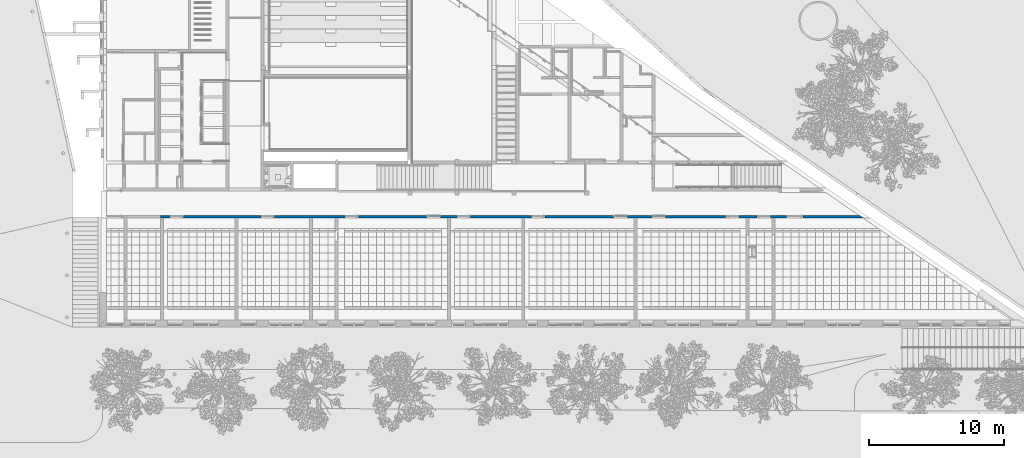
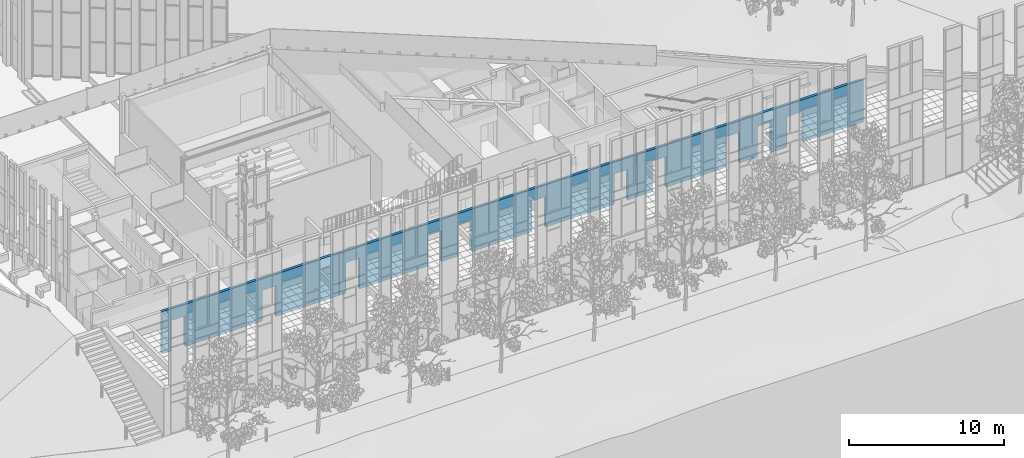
# One storey, part 109 of 246: 1 wall, 11 openings.
"""IFC2X3 building model written with IfcOpenShell, lengths in millimetres."""

from ifc_helpers import new_model, entity, si_unit, converted_unit, derived_unit, money_unit, direction, frame, origin_with_axes, place, context, subcontext, project, spatial, faceted_brep, material, material_list, type_object, element, save


model = new_model("IFC2X3")

# Units and contexts
model_context = context("Model", 3, precision=0.01, world=origin_with_axes(), true_north=direction((0.0, 1.0)))
body_context = subcontext(model_context, "Body", "Model", "MODEL_VIEW")
ifc_project = project(units=[si_unit("LENGTHUNIT", "METRE", prefix="MILLI"), si_unit("AREAUNIT", "SQUARE_METRE"), si_unit("VOLUMEUNIT", "CUBIC_METRE"), converted_unit("PLANEANGLEUNIT", "DEGREE", entity("IfcPlaneAngleMeasure", 0.0174532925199), si_unit("PLANEANGLEUNIT", "RADIAN"), dimensions=[0, 0, 0, 0, 0, 0, 0]), si_unit("SOLIDANGLEUNIT", "STERADIAN"), money_unit("EUR"), converted_unit("TIMEUNIT", "Year", entity("IfcTimeMeasure", 31556926.0), si_unit("TIMEUNIT", "SECOND"), dimensions=[0, 0, 1, 0, 0, 0, 0]), si_unit("MASSUNIT", "GRAM", prefix="KILO"), si_unit("THERMODYNAMICTEMPERATUREUNIT", "DEGREE_CELSIUS"), si_unit("LUMINOUSINTENSITYUNIT", "LUMEN"), si_unit("ENERGYUNIT", "JOULE", prefix="MEGA"), derived_unit("THERMALCONDUCTANCEUNIT", [(si_unit("POWERUNIT", "WATT"), 1), (si_unit("LENGTHUNIT", "METRE"), -1), (si_unit("THERMODYNAMICTEMPERATUREUNIT", "KELVIN"), -1)]), derived_unit("SPECIFICHEATCAPACITYUNIT", [(si_unit("ENERGYUNIT", "JOULE"), 1), (si_unit("MASSUNIT", "GRAM", prefix="KILO"), -1), (si_unit("THERMODYNAMICTEMPERATUREUNIT", "KELVIN"), -1)]), derived_unit("MASSDENSITYUNIT", [(si_unit("MASSUNIT", "GRAM", prefix="KILO"), 1), (si_unit("VOLUMEUNIT", "CUBIC_METRE"), -1)])], contexts=[model_context])

# Site, building, storey
site_placement = place(None, origin_with_axes())
site = spatial("IfcSite", under=ifc_project, at=site_placement, Name="L.Koidula tn 11b", CompositionType="ELEMENT")
building_placement = place(site_placement, origin_with_axes())
building = spatial("IfcBuilding", under=site, at=building_placement, Name="Rakvere Riigigümnaasium", CompositionType="ELEMENT")
storey_placement = place(building_placement, origin_with_axes())
storey = spatial("IfcBuildingStorey", under=building, at=storey_placement, Name="1.korrus 0,00", CompositionType="ELEMENT", Elevation=0.0)

# Wall, openings
ifc_material_1 = material(Name="siseviimistlus-seinad")
ifc_material_2 = material(Name="Betoon element / plaat")
ifc_material_list = material_list([ifc_material_1, ifc_material_2])
wall_type = type_object("IfcWallType", Name="SS-01-1 210", PredefinedType="NOTDEFINED")
wall_placement = place(storey_placement, frame((91374.3912898, 13280.4555133, 0.0), z_axis=(0.0, 0.0, 1.0), x_axis=(-1.0, -2.68268180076e-07, 0.0)))
wall = element("IfcWall", 1, at=wall_placement, inside=storey, type_object=wall_type, material=ifc_material_list, Name="Sisesein", context=body_context, shape_type="Brep", body=[
    faceted_brep([(5384.3908065, 199.999458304, 2400.0), (5384.3908065, 200.0, 0.0), (6274.40599034, 200.0, 0.0), (6274.40599034, 199.999458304, 3325.0), (-291.597111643, 200.001219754, 3325.0), (-291.597111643, 200.0, 0.0), (4184.3908065, 200.0, 0.0), (4184.3908065, 199.999458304, 2400.0), (5384.3908065, 210.0, 2400.0), (5384.3908065, 210.0, 0.0), (6274.40599303, 210.0, 0.0), (6274.40599303, 210.0, 3325.0), (-306.176967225, 210.0, 3325.0), (-306.176967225, 210.0, 0.0), (4184.3908065, 210.0, 0.0), (4184.3908065, 210.0, 2400.0)], [[[0, 1, 2, 3, 4, 5, 6, 7]], [[1, 0, 8, 9]], [[1, 9, 10, 2]], [[3, 2, 10, 11]], [[12, 4, 3, 11]], [[12, 13, 5, 4]], [[14, 6, 5, 13]], [[7, 6, 14, 15]], [[0, 7, 15, 8]], [[15, 14, 13, 12, 11, 10, 9, 8]]]),
    faceted_brep([(7574.40599034, 199.998943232, 2400.0), (7574.40599034, 200.0, 0.0), (8194.39383256, 200.0, 0.0), (8194.39383255, 199.998943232, 3325.0), (6474.40599034, 199.99940465, 3325.0), (6474.40599034, 200.0, 0.0), (6574.40599034, 200.0, 0.0), (6574.40599034, 199.998943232, 2400.0), (7574.40599034, 210.0, 2400.0), (7574.40599034, 210.0, 0.0), (8194.39383524, 210.0, 0.0), (8194.39383524, 210.0, 3325.0), (6474.40599303, 210.0, 3325.0), (6474.40599303, 210.0, 0.0), (6574.40599034, 210.0, 0.0), (6574.40599034, 210.0, 2400.0)], [[[0, 1, 2, 3, 4, 5, 6, 7]], [[1, 0, 8, 9]], [[1, 9, 10, 2]], [[3, 2, 10, 11]], [[4, 3, 11, 12]], [[12, 13, 5, 4]], [[14, 6, 5, 13]], [[7, 6, 14, 15]], [[0, 7, 15, 8]], [[15, 14, 13, 12, 11, 10, 9, 8]]]),
    faceted_brep([(9909.36296823, 199.996711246, 2400.0), (9909.36296823, 200.0, 0.0), (14384.4114584, 200.0, 0.0), (14384.4114584, 199.996711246, 2400.0), (15384.4114584, 199.996711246, 2400.0), (15384.4114584, 200.0, 0.0), (16514.3762544, 200.0, 0.0), (16514.3762544, 199.996711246, 3325.0), (8394.39383255, 199.998889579, 3325.0), (8394.39383256, 200.0, 0.0), (8909.36296823, 200.0, 0.0), (8909.36296823, 199.996711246, 2400.0), (9909.36296823, 210.0, 2400.0), (9909.36296823, 210.0, 0.0), (14384.4114584, 210.0, 0.0), (14384.4114584, 210.0, 2400.0), (15384.4114584, 210.0, 2400.0), (15384.4114584, 210.0, 0.0), (16514.3762571, 210.0, 0.0), (16514.3762571, 210.0, 3325.0), (8394.39383524, 210.0, 3325.0), (8394.39383524, 210.0, 0.0), (8909.36296823, 210.0, 0.0), (8909.36296823, 210.0, 2400.0)], [[[0, 1, 2, 3, 4, 5, 6, 7, 8, 9, 10, 11]], [[1, 0, 12, 13]], [[1, 13, 14, 2]], [[2, 14, 15, 3]], [[3, 15, 16, 4]], [[4, 16, 17, 5]], [[17, 18, 6, 5]], [[6, 18, 19, 7]], [[7, 19, 20, 8]], [[21, 9, 8, 20]], [[22, 10, 9, 21]], [[11, 10, 22, 23]], [[0, 11, 23, 12]], [[23, 22, 21, 20, 19, 18, 17, 16, 15, 14, 13, 12]]]),
    faceted_brep([(24334.3764134, 199.994479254, 2400.0), (24334.3764134, 200.0, 0.0), (24834.3764108, 200.0, 0.0), (24834.3764108, 199.994479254, 3325.0), (16714.3762544, 199.996657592, 3325.0), (16714.3762544, 200.0, 0.0), (17214.3762571, 200.0, 0.0), (17214.3762571, 199.994479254, 2400.0), (18214.3762571, 199.994479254, 2400.0), (18214.3762571, 200.0, 0.0), (23334.3764133, 200.0, 0.0), (23334.3764133, 199.994479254, 2400.0), (24334.3764134, 210.0, 2400.0), (24334.3764134, 210.0, 0.0), (24834.3764134, 210.0, 0.0), (24834.3764134, 210.0, 3325.0), (16714.3762571, 210.0, 3325.0), (16714.3762571, 210.0, 0.0), (17214.3762571, 210.0, 0.0), (17214.3762571, 210.0, 2400.0), (18214.3762571, 210.0, 2400.0), (18214.3762571, 210.0, 0.0), (23334.3764133, 210.0, 0.0), (23334.3764133, 210.0, 2400.0)], [[[0, 1, 2, 3, 4, 5, 6, 7, 8, 9, 10, 11]], [[1, 0, 12, 13]], [[1, 13, 14, 2]], [[2, 14, 15, 3]], [[3, 15, 16, 4]], [[17, 5, 4, 16]], [[6, 5, 17, 18]], [[6, 18, 19, 7]], [[7, 19, 20, 8]], [[8, 20, 21, 9]], [[22, 10, 9, 21]], [[11, 10, 22, 23]], [[0, 11, 23, 12]], [[23, 22, 21, 20, 19, 18, 17, 16, 15, 14, 13, 12]]]),
    faceted_brep([(29854.3411798, 199.992998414, 2400.0), (29854.3411798, 200.0, 0.0), (30354.3750518, 200.0, 0.0), (30354.3750518, 199.992998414, 3325.0), (25034.3764108, 199.994425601, 3325.0), (25034.3764108, 200.0, 0.0), (28854.3411797, 200.0, 0.0), (28854.3411797, 199.992998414, 2400.0), (29854.3411798, 210.0, 2400.0), (29854.3411798, 210.0, 0.0), (30354.3750545, 210.0, 0.0), (30354.3750545, 210.0, 3325.0), (25034.3764134, 210.0, 3325.0), (25034.3764134, 210.0, 0.0), (28854.3411797, 210.0, 0.0), (28854.3411797, 210.0, 2400.0)], [[[0, 1, 2, 3, 4, 5, 6, 7]], [[1, 0, 8, 9]], [[1, 9, 10, 2]], [[3, 2, 10, 11]], [[4, 3, 11, 12]], [[12, 13, 5, 4]], [[14, 6, 5, 13]], [[7, 6, 14, 15]], [[0, 7, 15, 8]], [[15, 14, 13, 12, 11, 10, 9, 8]]]),
    faceted_brep([(38174.3912916, 199.990766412, 2400.0), (38174.3912916, 200.0, 0.0), (38674.4147049, 200.0, 0.0), (38674.4147049, 199.990766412, 3325.0), (30554.3750518, 199.992944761, 3325.0), (30554.3750518, 200.0, 0.0), (31064.3750545, 200.0, 0.0), (31064.3750545, 199.990766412, 2400.0), (32064.3750545, 199.990766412, 2400.0), (32064.3750545, 200.0, 0.0), (37174.3912915, 200.0, 0.0), (37174.3912915, 199.990766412, 2400.0), (38174.3912916, 210.0, 2400.0), (38174.3912916, 210.0, 0.0), (38674.4147076, 210.0, 0.0), (38674.4147076, 210.0, 3325.0), (30554.3750545, 210.0, 3325.0), (30554.3750545, 210.0, 0.0), (31064.3750545, 210.0, 0.0), (31064.3750545, 210.0, 2400.0), (32064.3750545, 210.0, 2400.0), (32064.3750545, 210.0, 0.0), (37174.3912915, 210.0, 0.0), (37174.3912915, 210.0, 2400.0)], [[[0, 1, 2, 3, 4, 5, 6, 7, 8, 9, 10, 11]], [[1, 0, 12, 13]], [[1, 13, 14, 2]], [[2, 14, 15, 3]], [[3, 15, 16, 4]], [[17, 5, 4, 16]], [[6, 5, 17, 18]], [[6, 18, 19, 7]], [[7, 19, 20, 8]], [[8, 20, 21, 9]], [[22, 10, 9, 21]], [[11, 10, 22, 23]], [[0, 11, 23, 12]], [[23, 22, 21, 20, 19, 18, 17, 16, 15, 14, 13, 12]]]),
    faceted_brep([(40594.4082662, 199.990251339, 3325.0), (38874.4147049, 199.990712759, 3325.0), (38874.4147049, 200.0, 0.0), (40594.4082662, 200.0, 0.0), (38874.4147076, 210.0, 3325.0), (40594.4082689, 210.0, 3325.0), (38874.4147076, 210.0, 0.0), (40594.4082689, 210.0, 0.0)], [[[0, 1, 2, 3]], [[4, 1, 0, 5]], [[1, 4, 6, 2]], [[7, 3, 2, 6]], [[5, 0, 3, 7]], [[4, 5, 7, 6]]]),
    faceted_brep([(44374.3912963, 200.0, 2400.0), (44374.3912963, 200.0, 0.0), (46114.3913462, 200.0, 0.0), (46114.3913462, 200.0, 3325.0), (40794.4082662, 199.990197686, 3325.0), (40794.4082662, 200.0, 0.0), (43374.3912962, 200.0, 0.0), (43374.3912962, 200.0, 2400.0), (44374.3912963, 210.0, 2400.0), (44374.3912963, 210.0, 0.0), (46114.3913489, 210.0, 0.0), (46114.3913489, 210.0, 3325.0), (40794.4082689, 210.0, 3325.0), (40794.4082689, 210.0, 0.0), (43374.3912962, 210.0, 0.0), (43374.3912962, 210.0, 2400.0)], [[[0, 1, 2, 3, 4, 5, 6, 7]], [[1, 0, 8, 9]], [[1, 9, 10, 2]], [[3, 2, 10, 11]], [[4, 3, 11, 12]], [[12, 13, 5, 4]], [[14, 6, 5, 13]], [[7, 6, 14, 15]], [[0, 7, 15, 8]], [[15, 14, 13, 12, 11, 10, 9, 8]]]),
    faceted_brep([(51134.3913449, 200.0, 2400.0), (51134.3913449, 200.0, 0.0), (51634.3913449, 200.0, 0.0), (51634.3913449, 200.0, 3325.0), (46314.3913462, 200.0, 3325.0), (46314.3913462, 200.0, 0.0), (50134.3913448, 200.0, 0.0), (50134.3913448, 200.0, 2400.0), (51134.3913449, 210.0, 2400.0), (51134.3913449, 210.0, 0.0), (51634.3913476, 210.0, 0.0), (51634.3913476, 210.0, 3325.0), (46314.3913489, 210.0, 3325.0), (46314.3913489, 210.0, 0.0), (50134.3913448, 210.0, 0.0), (50134.3913448, 210.0, 2400.0)], [[[0, 1, 2, 3, 4, 5, 6, 7]], [[1, 0, 8, 9]], [[1, 9, 10, 2]], [[3, 2, 10, 11]], [[4, 3, 11, 12]], [[12, 13, 5, 4]], [[14, 6, 5, 13]], [[7, 6, 14, 15]], [[0, 7, 15, 8]], [[15, 14, 13, 12, 11, 10, 9, 8]]]),
    faceted_brep([(51844.3912913, 200.0, 3325.0), (51834.3913449, 200.0, 3325.0), (51834.3913449, 200.0, 0.0), (51844.3912913, 200.0, 0.0), (51834.3913476, 210.0, 3325.0), (51844.3912913, 210.0, 3325.0), (51834.3913476, 210.0, 0.0), (51844.3912913, 210.0, 0.0)], [[[0, 1, 2, 3]], [[4, 1, 0, 5]], [[1, 4, 6, 2]], [[6, 7, 3, 2]], [[5, 0, 3, 7]], [[4, 5, 7, 6]]]),
    faceted_brep([(7574.40599034, 0.0, 2400.0), (7574.40599034, 0.0, 0.0), (8909.36296823, 0.0, 0.0), (8909.36296823, 0.0, 2400.0), (9909.36296823, 0.0, 2400.0), (9909.36296823, 0.0, 0.0), (14384.4114584, 0.0, 0.0), (14384.4114584, 0.0, 2400.0), (15384.4114584, 0.0, 2400.0), (15384.4114584, 0.0, 0.0), (17214.3762571, 0.0, 0.0), (17214.3762571, 0.0, 2400.0), (18214.3762571, 0.0, 2400.0), (18214.3762571, 0.0, 0.0), (23334.3764133, 0.0, 0.0), (23334.3764133, 0.0, 2400.0), (24334.3764134, 0.0, 2400.0), (24334.3764134, 0.0, 0.0), (28854.3411797, 0.0, 0.0), (28854.3411797, 0.0, 2400.0), (29854.3411798, 0.0, 2400.0), (29854.3411798, 0.0, 0.0), (31064.3750545, 0.0, 0.0), (31064.3750545, 0.0, 2400.0), (32064.3750545, 0.0, 2400.0), (32064.3750545, 0.0, 0.0), (37174.3912915, 0.0, 0.0), (37174.3912915, 0.0, 2400.0), (38174.3912916, 0.0, 2400.0), (38174.3912916, 0.0, 0.0), (43374.3912962, 0.0, 0.0), (43374.3912962, 0.0, 2400.0), (44374.3912963, 0.0, 2400.0), (44374.3912963, 0.0, 0.0), (50134.3913448, 0.0, 0.0), (50134.3913448, 0.0, 2400.0), (51134.3913449, 0.0, 2400.0), (51134.3913449, 0.0, 0.0), (51844.3912913, 0.0, 0.0), (51844.3912913, 0.0, 3325.0), (0.0, 0.0, 3325.0), (0.0, 0.0, 0.0), (4184.3908065, 0.0, 0.0), (4184.3908065, 0.0, 2400.0), (5384.3908065, 0.0, 2400.0), (5384.3908065, 0.0, 0.0), (6574.40599034, 0.0, 0.0), (6574.40599034, 0.0, 2400.0), (7574.40599034, 80.0, 0.0), (7574.40599034, 199.994748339, 2400.0), (7574.40599034, 200.0, 0.0), (8909.36296823, 200.0, 0.0), (8909.36296823, 199.993707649, 2400.0), (9909.36296823, 199.992928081, 2400.0), (9909.36296823, 200.0, 0.0), (14384.4114584, 200.0, 0.0), (14384.4114584, 199.989439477, 2400.0), (15384.4114584, 199.988659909, 2400.0), (15384.4114584, 200.0, 0.0), (17214.3762571, 200.0, 0.0), (17214.3762571, 199.987233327, 2400.0), (18214.3762571, 199.987233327, 2400.0), (18214.3762571, 200.0, 0.0), (23334.3764133, 200.0, 0.0), (23334.3764133, 199.992320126, 2400.0), (24334.3764134, 199.993313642, 2400.0), (24334.3764134, 200.0, 0.0), (28854.3411797, 200.0, 0.0), (28854.3411797, 199.997804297, 2400.0), (29854.3411798, 199.998797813, 2400.0), (29854.3411798, 200.0, 0.0), (31064.3750545, 200.0, 0.0), (31064.3750545, 200.0, 2400.0), (32064.3750545, 200.0, 2400.0), (32064.3750545, 200.0, 0.0), (37174.3912915, 200.0, 0.0), (37174.3912915, 200.0, 2400.0), (38174.3912916, 200.0, 2400.0), (38174.3912916, 200.0, 0.0), (43374.3912962, 200.0, 0.0), (43374.3912962, 200.0, 2400.0), (44374.3912963, 200.0, 2400.0), (44374.3912963, 200.0, 0.0), (50134.3913448, 200.0, 0.0), (50134.3913448, 200.0, 2400.0), (51134.3913449, 200.0, 2400.0), (51134.3913449, 200.0, 0.0), (51844.3912913, 200.0, 0.0), (51844.3912913, 199.987233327, 3325.0), (-291.597111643, 200.001219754, 3325.0), (-291.597111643, 200.0, 0.0), (4184.3908065, 200.0, 0.0), (4184.3908065, 199.997391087, 2400.0), (5384.3908065, 199.996455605, 2400.0), (5384.3908065, 200.0, 0.0), (6574.40599034, 80.0, 0.0), (6574.40599034, 200.0, 0.0), (6574.40599034, 199.995527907, 2400.0)], [[[0, 1, 2, 3, 4, 5, 6, 7, 8, 9, 10, 11, 12, 13, 14, 15, 16, 17, 18, 19, 20, 21, 22, 23, 24, 25, 26, 27, 28, 29, 30, 31, 32, 33, 34, 35, 36, 37, 38, 39, 40, 41, 42, 43, 44, 45, 46, 47]], [[48, 1, 0, 49, 50]], [[1, 48, 50, 51, 2]], [[52, 3, 2, 51]], [[53, 4, 3, 52]], [[54, 5, 4, 53]], [[6, 5, 54, 55]], [[6, 55, 56, 7]], [[8, 7, 56, 57]], [[8, 57, 58, 9]], [[9, 58, 59, 10]], [[60, 11, 10, 59]], [[60, 61, 12, 11]], [[62, 13, 12, 61]], [[13, 62, 63, 14]], [[14, 63, 64, 15]], [[15, 64, 65, 16]], [[16, 65, 66, 17]], [[66, 67, 18, 17]], [[68, 19, 18, 67]], [[69, 20, 19, 68]], [[70, 21, 20, 69]], [[22, 21, 70, 71]], [[22, 71, 72, 23]], [[24, 23, 72, 73]], [[24, 73, 74, 25]], [[25, 74, 75, 26]], [[26, 75, 76, 27]], [[27, 76, 77, 28]], [[28, 77, 78, 29]], [[78, 79, 30, 29]], [[80, 31, 30, 79]], [[81, 32, 31, 80]], [[82, 33, 32, 81]], [[33, 82, 83, 34]], [[83, 84, 35, 34]], [[84, 85, 36, 35]], [[85, 86, 37, 36]], [[87, 38, 37, 86]], [[39, 38, 87, 88]], [[89, 40, 39, 88]], [[89, 90, 41, 40]], [[41, 90, 91, 42]], [[42, 91, 92, 43]], [[43, 92, 93, 44]], [[44, 93, 94, 45]], [[95, 46, 45, 94, 96]], [[47, 46, 95, 96, 97]], [[0, 47, 97, 49]], [[53, 52, 51, 50, 49, 97, 96, 94, 93, 92, 91, 90, 89, 60, 59, 58, 57, 56, 55, 54]], [[60, 89, 61]], [[62, 61, 64, 63]], [[89, 72, 69, 68, 65, 64, 61]], [[67, 66, 65, 68]], [[70, 69, 72, 71]], [[72, 89, 73]], [[74, 73, 76, 75]], [[77, 76, 73, 88, 80]], [[80, 79, 78, 77]], [[80, 88, 81]], [[81, 88, 82]], [[83, 82, 84]], [[84, 88, 85]], [[86, 85, 88]], [[87, 86, 88]], [[88, 73, 89]], [[82, 88, 84]]]),
])
opening_1_placement = place(wall_placement, frame((4784.3908065, 0.0, 0.0), z_axis=(0.0, 0.0, 1.0), x_axis=(1.0, 0.0, 0.0)))
element("IfcOpeningElement", 2, at=opening_1_placement, cuts=wall, Name="SU-028", context=body_context, shape_type="Brep", body=[
    faceted_brep([(600.0, 420.0, 0.0), (600.0, 420.0, 2400.0), (600.0, 80.0, 2400.0), (600.0, 80.0, 0.0), (-600.0, 420.0, 0.0), (-600.0, 420.0, 2400.0), (-600.0, 80.0, 2400.0), (-600.0, 80.0, 0.0)], [[[0, 1, 2, 3]], [[0, 4, 5, 1]], [[1, 5, 6, 2]], [[3, 2, 6, 7]], [[4, 0, 3, 7]], [[5, 4, 7, 6]]]),
    faceted_brep([(600.0, -210.0, 2400.0), (600.0, -210.0, 0.0), (600.0, 80.0, 0.0), (600.0, 80.0, 2400.0), (-600.0, -210.0, 2400.0), (-600.0, -210.0, 0.0), (-600.0, 80.0, 0.0), (-600.0, 80.0, 2400.0)], [[[0, 1, 2, 3]], [[0, 4, 5, 1]], [[1, 5, 6, 2]], [[3, 2, 6, 7]], [[4, 0, 3, 7]], [[5, 4, 7, 6]]]),
])
opening_2_placement = place(wall_placement, frame((43874.3912963, 0.0, 0.0), z_axis=(0.0, 0.0, 1.0), x_axis=(1.0, 0.0, 0.0)))
element("IfcOpeningElement", 3, at=opening_2_placement, cuts=wall, Name="SU-019", context=body_context, shape_type="Brep", body=[
    faceted_brep([(500.000000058, 420.0, 0.0), (500.000000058, 420.0, 2400.0), (500.000000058, 80.0, 2400.0), (500.000000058, 80.0, 0.0), (-500.000000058, 420.0, 0.0), (-500.000000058, 420.0, 2400.0), (-500.000000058, 80.0, 2400.0), (-500.000000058, 80.0, 0.0)], [[[0, 1, 2, 3]], [[0, 4, 5, 1]], [[1, 5, 6, 2]], [[3, 2, 6, 7]], [[4, 0, 3, 7]], [[5, 4, 7, 6]]]),
    faceted_brep([(500.000000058, -210.0, 2400.0), (500.000000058, -210.0, 0.0), (500.000000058, 80.0, 0.0), (500.000000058, 80.0, 2400.0), (-500.000000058, -210.0, 2400.0), (-500.000000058, -210.0, 0.0), (-500.000000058, 80.0, 0.0), (-500.000000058, 80.0, 2400.0)], [[[0, 1, 2, 3]], [[0, 4, 5, 1]], [[1, 5, 6, 2]], [[3, 2, 6, 7]], [[4, 0, 3, 7]], [[5, 4, 7, 6]]]),
])
opening_3_placement = place(wall_placement, frame((37674.3912915, 0.0, 0.0), z_axis=(0.0, 0.0, 1.0), x_axis=(1.0, 0.0, 0.0)))
element("IfcOpeningElement", 4, at=opening_3_placement, cuts=wall, Name="SU-020", context=body_context, shape_type="Brep", body=[
    faceted_brep([(500.000000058, 420.0, 0.0), (500.000000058, 420.0, 2400.0), (500.000000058, 80.0, 2400.0), (500.000000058, 80.0, 0.0), (-500.000000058, 420.0, 0.0), (-500.000000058, 420.0, 2400.0), (-500.000000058, 80.0, 2400.0), (-500.000000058, 80.0, 0.0)], [[[0, 1, 2, 3]], [[0, 4, 5, 1]], [[1, 5, 6, 2]], [[3, 2, 6, 7]], [[4, 0, 3, 7]], [[5, 4, 7, 6]]]),
    faceted_brep([(500.000000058, -210.0, 2400.0), (500.000000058, -210.0, 0.0), (500.000000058, 80.0, 0.0), (500.000000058, 80.0, 2400.0), (-500.000000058, -210.0, 2400.0), (-500.000000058, -210.0, 0.0), (-500.000000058, 80.0, 0.0), (-500.000000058, 80.0, 2400.0)], [[[0, 1, 2, 3]], [[0, 4, 5, 1]], [[1, 5, 6, 2]], [[3, 2, 6, 7]], [[4, 0, 3, 7]], [[5, 4, 7, 6]]]),
])
opening_4_placement = place(wall_placement, frame((29354.3411797, 0.0, 0.0), z_axis=(0.0, 0.0, 1.0), x_axis=(1.0, 0.0, 0.0)))
element("IfcOpeningElement", 5, at=opening_4_placement, cuts=wall, Name="SU-022", context=body_context, shape_type="Brep", body=[
    faceted_brep([(500.000000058, 420.0, 0.0), (500.000000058, 420.0, 2400.0), (500.000000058, 80.0, 2400.0), (500.000000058, 80.0, 0.0), (-500.000000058, 420.0, 0.0), (-500.000000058, 420.0, 2400.0), (-500.000000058, 80.0, 2400.0), (-500.000000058, 80.0, 0.0)], [[[0, 1, 2, 3]], [[0, 4, 5, 1]], [[1, 5, 6, 2]], [[3, 2, 6, 7]], [[4, 0, 3, 7]], [[5, 4, 7, 6]]]),
    faceted_brep([(500.000000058, -210.0, 2400.0), (500.000000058, -210.0, 0.0), (500.000000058, 80.0, 0.0), (500.000000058, 80.0, 2400.0), (-500.000000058, -210.0, 2400.0), (-500.000000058, -210.0, 0.0), (-500.000000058, 80.0, 0.0), (-500.000000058, 80.0, 2400.0)], [[[0, 1, 2, 3]], [[0, 4, 5, 1]], [[1, 5, 6, 2]], [[3, 2, 6, 7]], [[4, 0, 3, 7]], [[5, 4, 7, 6]]]),
])
opening_5_placement = place(wall_placement, frame((23834.3764134, 0.0, 0.0), z_axis=(0.0, 0.0, 1.0), x_axis=(1.0, 0.0, 0.0)))
element("IfcOpeningElement", 6, at=opening_5_placement, cuts=wall, Name="SU-023", context=body_context, shape_type="Brep", body=[
    faceted_brep([(500.000000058, 420.0, 0.0), (500.000000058, 420.0, 2400.0), (500.000000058, 80.0, 2400.0), (500.000000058, 80.0, 0.0), (-500.000000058, 420.0, 0.0), (-500.000000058, 420.0, 2400.0), (-500.000000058, 80.0, 2400.0), (-500.000000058, 80.0, 0.0)], [[[0, 1, 2, 3]], [[0, 4, 5, 1]], [[1, 5, 6, 2]], [[3, 2, 6, 7]], [[4, 0, 3, 7]], [[5, 4, 7, 6]]]),
    faceted_brep([(500.000000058, -210.0, 2400.0), (500.000000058, -210.0, 0.0), (500.000000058, 80.0, 0.0), (500.000000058, 80.0, 2400.0), (-500.000000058, -210.0, 2400.0), (-500.000000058, -210.0, 0.0), (-500.000000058, 80.0, 0.0), (-500.000000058, 80.0, 2400.0)], [[[0, 1, 2, 3]], [[0, 4, 5, 1]], [[1, 5, 6, 2]], [[3, 2, 6, 7]], [[4, 0, 3, 7]], [[5, 4, 7, 6]]]),
])
opening_6_placement = place(wall_placement, frame((9409.36296823, 0.0, 0.0), z_axis=(0.0, 0.0, 1.0), x_axis=(1.0, 0.0, 0.0)))
element("IfcOpeningElement", 7, at=opening_6_placement, cuts=wall, Name="SU-024", context=body_context, shape_type="Brep", body=[
    faceted_brep([(-500.0, 80.0, 0.0), (-500.0, 80.0, 2400.0), (-500.0, 420.0, 2400.0), (-500.0, 420.0, 0.0), (500.0, 80.0, 0.0), (500.0, 80.0, 2400.0), (500.0, 420.0, 2400.0), (500.0, 420.0, 0.0)], [[[0, 1, 2, 3]], [[0, 4, 5, 1]], [[1, 5, 6, 2]], [[3, 2, 6, 7]], [[4, 0, 3, 7]], [[5, 4, 7, 6]]]),
    faceted_brep([(-500.0, 80.0, 2400.0), (-500.0, 80.0, 0.0), (-500.0, -210.0, 0.0), (-500.0, -210.0, 2400.0), (500.0, 80.0, 2400.0), (500.0, 80.0, 0.0), (500.0, -210.0, 0.0), (500.0, -210.0, 2400.0)], [[[0, 1, 2, 3]], [[0, 4, 5, 1]], [[1, 5, 6, 2]], [[3, 2, 6, 7]], [[4, 0, 3, 7]], [[5, 4, 7, 6]]]),
])
opening_7_placement = place(wall_placement, frame((50634.3913449, 0.0, 0.0), z_axis=(0.0, 0.0, 1.0), x_axis=(1.0, 0.0, 0.0)))
element("IfcOpeningElement", 8, at=opening_7_placement, cuts=wall, Name="SU-018", context=body_context, shape_type="Brep", body=[
    faceted_brep([(500.000000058, 210.0, 0.0), (500.000000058, 210.0, 2400.0), (500.000000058, -420.0, 2400.0), (500.000000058, -420.0, 0.0), (-500.000000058, 210.0, 0.0), (-500.000000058, 210.0, 2400.0), (-500.000000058, -420.0, 2400.0), (-500.000000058, -420.0, 0.0)], [[[0, 1, 2, 3]], [[0, 4, 5, 1]], [[1, 5, 6, 2]], [[3, 2, 6, 7]], [[4, 0, 3, 7]], [[5, 4, 7, 6]]]),
])
opening_8_placement = place(wall_placement, frame((7074.40599034, 0.0, 0.0), z_axis=(0.0, 0.0, 1.0), x_axis=(1.0, 0.0, 0.0)))
element("IfcOpeningElement", 9, at=opening_8_placement, cuts=wall, Name="SU-025", context=body_context, shape_type="Brep", body=[
    faceted_brep([(-500.0, 420.0, 2400.0), (-500.0, 420.0, 0.0), (-500.0, 80.0, 0.0), (-500.0, 80.0, 2400.0), (500.0, 420.0, 2400.0), (500.0, 420.0, 0.0), (500.0, 80.0, 0.0), (500.0, 80.0, 2400.0)], [[[0, 1, 2, 3]], [[0, 4, 5, 1]], [[1, 5, 6, 2]], [[3, 2, 6, 7]], [[4, 0, 3, 7]], [[5, 4, 7, 6]]]),
    faceted_brep([(-500.0, -210.0, 0.0), (-500.0, -210.0, 2400.0), (-500.0, 80.0, 2400.0), (-500.0, 80.0, 0.0), (500.0, -210.0, 0.0), (500.0, -210.0, 2400.0), (500.0, 80.0, 2400.0), (500.0, 80.0, 0.0)], [[[0, 1, 2, 3]], [[0, 4, 5, 1]], [[1, 5, 6, 2]], [[3, 2, 6, 7]], [[4, 0, 3, 7]], [[5, 4, 7, 6]]]),
])
opening_9_placement = place(wall_placement, frame((31564.3750545, 0.0, 0.0), z_axis=(0.0, 0.0, 1.0), x_axis=(1.0, 0.0, 0.0)))
element("IfcOpeningElement", 10, at=opening_9_placement, cuts=wall, Name="ava", context=body_context, shape_type="Brep", body=[
    faceted_brep([(500.0, -210.0, 2400.0), (500.0, -210.0, 0.0), (500.0, 50.0, 0.0), (500.0, 50.0, 2400.0), (-500.0, -210.0, 2400.0), (-500.0, -210.0, 0.0), (-500.0, 50.0, 0.0), (-500.0, 50.0, 2400.0)], [[[0, 1, 2, 3]], [[0, 4, 5, 1]], [[1, 5, 6, 2]], [[3, 2, 6, 7]], [[4, 0, 3, 7]], [[5, 4, 7, 6]]]),
    faceted_brep([(500.0, 310.0, 0.0), (500.0, 310.0, 2400.0), (500.0, 50.0, 2400.0), (500.0, 50.0, 0.0), (-500.0, 310.0, 0.0), (-500.0, 310.0, 2400.0), (-500.0, 50.0, 2400.0), (-500.0, 50.0, 0.0)], [[[0, 1, 2, 3]], [[0, 4, 5, 1]], [[1, 5, 6, 2]], [[3, 2, 6, 7]], [[4, 0, 3, 7]], [[5, 4, 7, 6]]]),
])
opening_10_placement = place(wall_placement, frame((17714.3762571, 0.0, 0.0), z_axis=(0.0, 0.0, 1.0), x_axis=(1.0, 0.0, 0.0)))
element("IfcOpeningElement", 11, at=opening_10_placement, cuts=wall, Name="ava", context=body_context, shape_type="Brep", body=[
    faceted_brep([(500.0, -210.0, 2400.0), (500.0, -210.0, 0.0), (500.0, 50.0, 0.0), (500.0, 50.0, 2400.0), (-500.0, -210.0, 2400.0), (-500.0, -210.0, 0.0), (-500.0, 50.0, 0.0), (-500.0, 50.0, 2400.0)], [[[0, 1, 2, 3]], [[0, 4, 5, 1]], [[1, 5, 6, 2]], [[3, 2, 6, 7]], [[4, 0, 3, 7]], [[5, 4, 7, 6]]]),
    faceted_brep([(500.0, 310.0, 0.0), (500.0, 310.0, 2400.0), (500.0, 50.0, 2400.0), (500.0, 50.0, 0.0), (-500.0, 310.0, 0.0), (-500.0, 310.0, 2400.0), (-500.0, 50.0, 2400.0), (-500.0, 50.0, 0.0)], [[[0, 1, 2, 3]], [[0, 4, 5, 1]], [[1, 5, 6, 2]], [[3, 2, 6, 7]], [[4, 0, 3, 7]], [[5, 4, 7, 6]]]),
])
opening_11_placement = place(wall_placement, frame((14884.4114584, 0.0, 0.0), z_axis=(0.0, 0.0, 1.0), x_axis=(1.0, 0.0, 0.0)))
element("IfcOpeningElement", 12, at=opening_11_placement, cuts=wall, Name="ava", context=body_context, shape_type="Brep", body=[
    faceted_brep([(500.0, -210.0, 2400.0), (500.0, -210.0, 0.0), (500.0, 50.0, 0.0), (500.0, 50.0, 2400.0), (-500.0, -210.0, 2400.0), (-500.0, -210.0, 0.0), (-500.0, 50.0, 0.0), (-500.0, 50.0, 2400.0)], [[[0, 1, 2, 3]], [[0, 4, 5, 1]], [[1, 5, 6, 2]], [[3, 2, 6, 7]], [[4, 0, 3, 7]], [[5, 4, 7, 6]]]),
    faceted_brep([(500.0, 310.0, 0.0), (500.0, 310.0, 2400.0), (500.0, 50.0, 2400.0), (500.0, 50.0, 0.0), (-500.0, 310.0, 0.0), (-500.0, 310.0, 2400.0), (-500.0, 50.0, 2400.0), (-500.0, 50.0, 0.0)], [[[0, 1, 2, 3]], [[0, 4, 5, 1]], [[1, 5, 6, 2]], [[3, 2, 6, 7]], [[4, 0, 3, 7]], [[5, 4, 7, 6]]]),
])

save(model, "model.ifc")
